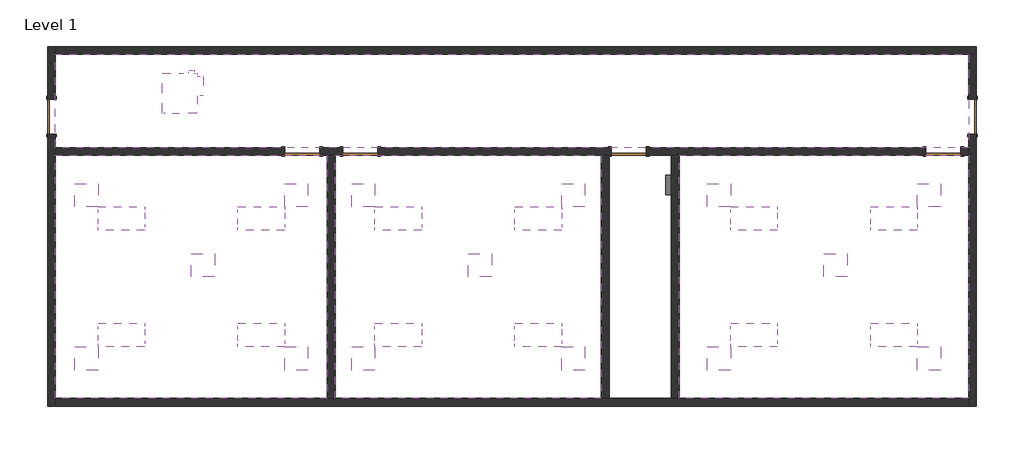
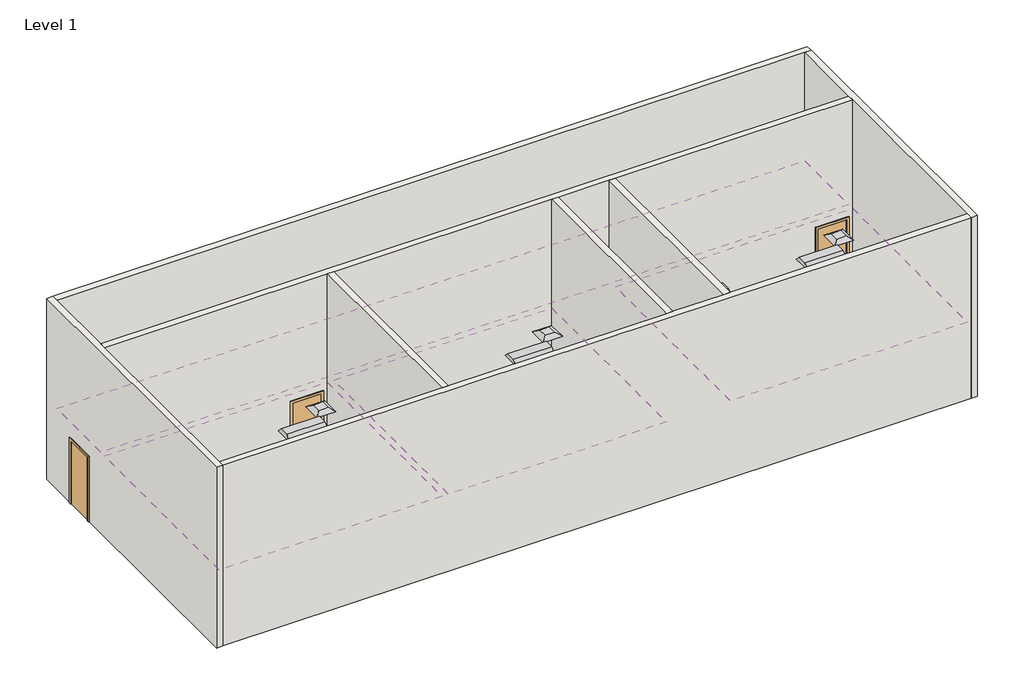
# One storey: 15 air terminals, 12 light fixtures, 8 walls, 6 doors, 4 coverings, 2 proxies.
"""IFC4 building model written with IfcOpenShell, lengths in millimetres."""

import ifcopenshell
import ifcopenshell.guid

model = None  # the IFC model being written
_history = None  # IfcOwnerHistory: only IFC2X3 demands one
_inside = {}  # id of a spatial element -> (the spatial element, [elements in it])
_under = {}  # id of a project, library or spatial element -> (it, [spatial elements below it])
_declared = {}  # id of a project -> (the project, [libraries it declares])
_typed = {}  # id of a type object -> (the type object, [elements of that type])
_made_of = {}  # id of a material, layer set ... -> (it, [elements and type objects made of it])


def new_model(schema):
    """Start an empty IFC model of exactly this schema.

    Asked for "IFC4X3", IfcOpenShell would pick the latest addendum, in which some entities
    have other attributes; the version numbers below select the first issue.
    IFC2X3 requires an IfcOwnerHistory on every rooted entity: one is made here for all.
    """
    global model, _history
    if schema == "IFC4X3":
        model = ifcopenshell.file(schema_version=(4, 3, 0, 0))
    else:
        model = ifcopenshell.file(schema=schema)
    _inside.clear()
    _under.clear()
    _declared.clear()
    _typed.clear()
    _made_of.clear()
    _history = None
    if model.schema == "IFC2X3":
        org = make("IfcOrganization", Name="unknown")
        user = make(
            "IfcPersonAndOrganization",
            ThePerson=make("IfcPerson", FamilyName="unknown"),
            TheOrganization=org,
        )
        app = make(
            "IfcApplication",
            ApplicationDeveloper=org,
            Version="unknown",
            ApplicationFullName="unknown",
            ApplicationIdentifier="unknown",
        )
        _history = make(
            "IfcOwnerHistory",
            OwningUser=user,
            OwningApplication=app,
            ChangeAction="ADDED",
            CreationDate=0,
        )
    return model


def make(cls, **values):
    """One entity of the class cls with the attributes given. An attribute that is None is left unset."""
    return model.create_entity(
        cls, **{name: value for name, value in values.items() if value is not None}
    )


def rooted(cls, **values):
    """An entity with a GlobalId (a new one), such as an element, a storey or a relation."""
    return make(cls, GlobalId=ifcopenshell.guid.new(), OwnerHistory=_history, **values)


def si_unit(unit_type, name, prefix=None):
    """IfcSIUnit, for example si_unit("LENGTHUNIT", "METRE", prefix="MILLI")."""
    return make("IfcSIUnit", UnitType=unit_type, Prefix=prefix, Name=name)


def assignment(units):
    """IfcUnitAssignment: the units of a project."""
    return None if units is None else make("IfcUnitAssignment", Units=units)


def point(xyz):
    """IfcCartesianPoint."""
    return None if xyz is None else make("IfcCartesianPoint", Coordinates=xyz)


def direction(xyz):
    """IfcDirection."""
    return None if xyz is None else make("IfcDirection", DirectionRatios=xyz)


def frame(location, z_axis=None, x_axis=None):
    """IfcAxis2Placement3D, a coordinate frame: its origin and axes. An axis left out is left unset."""
    return make(
        "IfcAxis2Placement3D",
        Location=point(location),
        Axis=direction(z_axis),
        RefDirection=direction(x_axis),
    )


def frame_2d(location, x_axis=None):
    """IfcAxis2Placement2D, a coordinate frame in the plane: its origin and x axis."""
    return make(
        "IfcAxis2Placement2D", Location=point(location), RefDirection=direction(x_axis)
    )


def origin():
    """The frame at (0, 0, 0) with its axes left unset."""
    return frame((0.0, 0.0, 0.0))


def origin_with_axes():
    """The frame at (0, 0, 0) with the z axis (0, 0, 1) and the x axis (1, 0, 0) written out."""
    return frame((0.0, 0.0, 0.0), z_axis=(0.0, 0.0, 1.0), x_axis=(1.0, 0.0, 0.0))


def place(relative_to, where):
    """IfcLocalPlacement: puts the frame where relative to a parent placement (None: the world)."""
    return make(
        "IfcLocalPlacement", PlacementRelTo=relative_to, RelativePlacement=where
    )


def context(
    kind, dimensions, precision=None, world=None, true_north=None, identifier=None
):
    """IfcGeometricRepresentationContext, for example the 3D "Model" context."""
    return make(
        "IfcGeometricRepresentationContext",
        ContextIdentifier=identifier,
        ContextType=kind,
        CoordinateSpaceDimension=dimensions,
        Precision=precision,
        WorldCoordinateSystem=world,
        TrueNorth=true_north,
    )


def project(units=None, contexts=None):
    """IfcProject with its units and contexts."""
    return rooted(
        "IfcProject",
        Name="project",
        RepresentationContexts=contexts,
        UnitsInContext=assignment(units),
    )


def spatial(cls, under=None, at=None, **own):
    """A site, building, storey or space (cls), placed at a placement, below another one or the project."""
    s = rooted(cls, ObjectPlacement=at, **own)
    if under is not None:
        _under.setdefault(under.id(), (under, []))[1].append(s)
    return s


def polyline(points):
    """IfcPolyline through the points."""
    return make("IfcPolyline", Points=[point(p) for p in points])


def circle_curve(where, radius):
    """IfcCircle in the frame where."""
    return make("IfcCircle", Position=where, Radius=radius)


def trimmed(basis, trim1, trim2, sense, master):
    """IfcTrimmedCurve: the piece of a basis curve between two trims."""
    return make(
        "IfcTrimmedCurve",
        BasisCurve=basis,
        Trim1=trim1,
        Trim2=trim2,
        SenseAgreement=sense,
        MasterRepresentation=master,
    )


def segment(curve, same_sense, transition):
    """IfcCompositeCurveSegment."""
    return make(
        "IfcCompositeCurveSegment",
        Transition=transition,
        SameSense=same_sense,
        ParentCurve=curve,
    )


def composite_curve(segments, self_intersect=None):
    """IfcCompositeCurve: segments joined end to end."""
    return make("IfcCompositeCurve", Segments=segments, SelfIntersect=self_intersect)


def outline(outer, holes=None, kind="AREA"):
    """IfcArbitraryClosedProfileDef: a profile drawn as a closed curve; with holes, ...WithVoids."""
    if holes is None:
        return make("IfcArbitraryClosedProfileDef", ProfileType=kind, OuterCurve=outer)
    return make(
        "IfcArbitraryProfileDefWithVoids",
        ProfileType=kind,
        OuterCurve=outer,
        InnerCurves=holes,
    )


def extrude(swept, where, along, depth):
    """IfcExtrudedAreaSolid: the profile swept, set in the frame where, extruded along a direction by depth."""
    return make(
        "IfcExtrudedAreaSolid",
        SweptArea=swept,
        Position=where,
        ExtrudedDirection=direction(along),
        Depth=depth,
    )


def faces_of(points, faces, orient=None, outer=None):
    """IfcFace entities. A face is a list of loops; a loop is a list of indices into points, from 0.

    orient and outer hold one flag for each loop. By default every Orientation is true, the
    first loop of a face is its IfcFaceOuterBound and the others are IfcFaceBound.
    """
    made = []
    for i, loops in enumerate(faces):
        bounds = []
        for j, loop in enumerate(loops):
            is_outer = j == 0 if outer is None else outer[i][j]
            bounds.append(
                make(
                    "IfcFaceOuterBound" if is_outer else "IfcFaceBound",
                    Bound=make("IfcPolyLoop", Polygon=[points[k] for k in loop]),
                    Orientation=True if orient is None else orient[i][j],
                )
            )
        made.append(make("IfcFace", Bounds=bounds))
    return made


def faceted_brep(points, faces, orient=None, outer=None, voids=None):
    """IfcFacetedBrep: a solid bounded by flat faces; with voids (closed shells), ...WithVoids."""
    shared = [point(p) for p in points]
    hull = make("IfcClosedShell", CfsFaces=faces_of(shared, faces, orient, outer))
    if voids is None:
        return make("IfcFacetedBrep", Outer=hull)
    return make(
        "IfcFacetedBrepWithVoids",
        Outer=hull,
        Voids=[
            make(cls, CfsFaces=faces_of(shared, fs, o, b)) for cls, fs, o, b in voids
        ],
    )


def shape(context_of_items, identifier, shape_type, items):
    """IfcShapeRepresentation: the items that make up one representation, for example the "Body"."""
    return make(
        "IfcShapeRepresentation",
        ContextOfItems=context_of_items,
        RepresentationIdentifier=identifier,
        RepresentationType=shape_type,
        Items=items,
    )


def source(mapping_origin, context_of_items, identifier, shape_type, items):
    """IfcRepresentationMap: a shape defined once, which mapped items show again and again."""
    return make(
        "IfcRepresentationMap",
        MappingOrigin=mapping_origin,
        MappedRepresentation=shape(context_of_items, identifier, shape_type, items),
    )


def transform(
    local_origin,
    x_axis=None,
    y_axis=None,
    z_axis=None,
    scale=None,
    scale2=None,
    scale3=None,
    uniform=True,
):
    """IfcCartesianTransformationOperator3D, or its non-uniform kind. x_axis, y_axis, z_axis: its Axis1, 2, 3."""
    if uniform:
        return make(
            "IfcCartesianTransformationOperator3D",
            Axis1=direction(x_axis),
            Axis2=direction(y_axis),
            LocalOrigin=point(local_origin),
            Scale=scale,
            Axis3=direction(z_axis),
        )
    return make(
        "IfcCartesianTransformationOperator3DnonUniform",
        Axis1=direction(x_axis),
        Axis2=direction(y_axis),
        LocalOrigin=point(local_origin),
        Scale=scale,
        Axis3=direction(z_axis),
        Scale2=scale2,
        Scale3=scale3,
    )


def mapped(mapping_source, mapping_target):
    """IfcMappedItem: shows the shape of a source again, moved by a transform."""
    return make(
        "IfcMappedItem", MappingSource=mapping_source, MappingTarget=mapping_target
    )


def made_of(thing, what):
    """Note that an element or type object is made of a material, layer set ...; save() writes the relation."""
    if what is not None:
        _made_of.setdefault(what.id(), (what, []))[1].append(thing)
    return thing


def element(
    cls,
    number,
    at=None,
    inside=None,
    cuts=None,
    type_object=None,
    material=None,
    context=None,
    identifier="Body",
    shape_type=None,
    held_by="IfcProductDefinitionShape",
    body=None,
    shapes=None,
    **own,
):
    """One element of the class cls, such as IfcWall. Its Tag is "e" and its number.

    at: its placement. inside: the storey or other place that contains it. cuts: it is an
    opening in that element (IfcRelVoidsElement). A single representation is given by context,
    identifier, shape_type and body (its items); several are given by shapes. held_by: the class
    of the entity that holds the representations. save() writes the other relations.
    """
    e = rooted(cls, Tag="e%d" % number, ObjectPlacement=at, **own)
    if body is not None:
        shapes = [shape(context, identifier, shape_type, body)]
    if shapes is not None:
        e.Representation = make(held_by, Representations=shapes)
    if inside is not None:
        _inside.setdefault(inside.id(), (inside, []))[1].append(e)
    if cuts is not None:
        rooted(
            "IfcRelVoidsElement", RelatingBuildingElement=cuts, RelatedOpeningElement=e
        )
    if type_object is not None:
        _typed.setdefault(type_object.id(), (type_object, []))[1].append(e)
    return made_of(e, material)


def aggregate(whole, parts):
    """IfcRelAggregates: a whole, such as a stair, and the parts it consists of."""
    return rooted("IfcRelAggregates", RelatingObject=whole, RelatedObjects=parts)


def save(model, path):
    """Write the relations noted so far, then the file.

    IfcRelAggregates (storeys below a building ...), IfcRelContainedInSpatialStructure (elements
    in a storey), IfcRelDefinesByType, IfcRelAssociatesMaterial and IfcRelDeclares: one each for
    every whole, place, type object, material and project.
    """
    for whole, parts in _under.values():
        aggregate(whole, parts)
    for where, things in _inside.values():
        rooted(
            "IfcRelContainedInSpatialStructure",
            RelatedElements=things,
            RelatingStructure=where,
        )
    for kind, things in _typed.values():
        rooted("IfcRelDefinesByType", RelatedObjects=things, RelatingType=kind)
    for what, things in _made_of.values():
        rooted("IfcRelAssociatesMaterial", RelatedObjects=things, RelatingMaterial=what)
    for by, libraries in _declared.values():
        rooted("IfcRelDeclares", RelatingContext=by, RelatedDefinitions=libraries)
    model.write(path)


def return_air_diffuser_24_x_24_face_12_x_12_connection_ff543d60(model_context):
    return source(origin(), model_context, "Body", "Brep", [
        faceted_brep([(152.4, 152.4, 101.6), (-152.4, 152.4, 101.6), (-152.4, -152.4, 101.6), (152.4, -152.4, 101.6), (304.8, 304.8, 0.0), (304.8, -304.8, 0.0), (-304.8, -304.8, 0.0), (-304.8, 304.8, 0.0)], [[[0, 1, 2, 3]], [[4, 5, 6, 7]], [[4, 7, 1, 0]], [[7, 6, 2, 1]], [[6, 5, 3, 2]], [[5, 4, 0, 3]]]),
    ])


def proxy_250a_6d932d76(model_context):
    return source(origin(), model_context, "Body", "SweptSolid", [
        extrude(outline(polyline([(254.0, 856.4725953), (254.0, -108.7274047), (-254.0, -108.7274047), (-254.0, 856.4725953), (254.0, 856.4725953)])), origin_with_axes(), (0.0, 0.0, 1.0), 146.05),
    ])


def parallel_fan_powered_vav_size_2_6_inch_inlet_6222e6d5(model_context):
    return source(origin(), model_context, "Body", "SolidModel", [
        extrude(outline(polyline([(531.8125, -15.875), (531.8125, -371.475), (519.1125, -371.475), (519.1125, -15.875), (531.8125, -15.875)])), frame((0.0, 0.0, -139.7), z_axis=(0.0, 0.0, 1.0), x_axis=(1.0, 0.0, 0.0)), (0.0, 0.0, 1.0), 279.4),
        extrude(outline(polyline([(61.9125, 460.375), (-446.0875, 460.375), (-446.0875, 619.125), (61.9125, 619.125), (61.9125, 460.375)])), frame((0.0, 0.0, -152.4), z_axis=(0.0, 0.0, 1.0), x_axis=(1.0, 0.0, 0.0)), (0.0, 0.0, 1.0), 304.8),
        extrude(outline(composite_curve([segment(trimmed(circle_curve(frame_2d((307.975, 0.0)), 76.2), [point((231.775, 0.0))], [point((384.175, 0.0))], False, "CARTESIAN"), True, "CONTINUOUS"), segment(trimmed(circle_curve(frame_2d((307.975, 0.0)), 76.2), [point((384.175, 0.0))], [point((231.775, 0.0))], False, "CARTESIAN"), True, "CONTINUOUS")], self_intersect=False)), frame((-604.8375, 0.0, 0.0), z_axis=(1.0, 0.0, 0.0), x_axis=(0.0, 1.0, 0.0)), (0.0, 0.0, 1.0), 85.725),
        faceted_brep([(519.1125, 460.375, 217.4875), (-519.1125, 460.375, 217.4875), (-519.1125, -460.375, 217.4875), (519.1125, -460.375, 217.4875), (519.1125, 460.375, -217.4875), (519.1125, -460.375, -217.4875), (-519.1125, -460.375, -217.4875), (-519.1125, 460.375, -217.4875), (-519.1125, -434.975, 177.8), (-519.1125, -434.975, -177.8), (-519.1125, -28.575, -177.8), (-519.1125, -28.575, 177.8), (0.0, -434.975, 177.8), (0.0, -28.575, 177.8), (0.0, -28.575, -177.8), (0.0, -434.975, -177.8)], [[[0, 1, 2, 3]], [[4, 5, 6, 7]], [[1, 0, 4, 7]], [[2, 1, 7, 6], [8, 9, 10, 11]], [[3, 2, 6, 5]], [[0, 3, 5, 4]], [[12, 13, 14, 15]], [[12, 15, 9, 8]], [[15, 14, 10, 9]], [[14, 13, 11, 10]], [[13, 12, 8, 11]]]),
    ])


def door_54dd4da4(model_context):
    return source(origin(), model_context, "Body", "SweptSolid", [
        extrude(outline(polyline([(2209.8, -533.4), (0.0, -533.4), (0.0, -457.2), (2133.6, -457.2), (2133.6, 457.2), (0.0, 457.2), (0.0, 533.4), (2209.8, 533.4), (2209.8, -533.4)])), frame((0.0, 101.6, 0.0), z_axis=(0.0, 1.0, 0.0), x_axis=(0.0, 0.0, 1.0)), (0.0, 0.0, 1.0), 25.4),
        extrude(outline(polyline([(2209.8, 533.4), (2209.8, -533.4), (0.0, -533.4), (0.0, -457.2), (2133.6, -457.2), (2133.6, 457.2), (0.0, 457.2), (0.0, 533.4), (2209.8, 533.4)])), frame((0.0, -127.0, 0.0), z_axis=(0.0, 1.0, 0.0), x_axis=(0.0, 0.0, 1.0)), (0.0, 0.0, 1.0), 25.4),
        extrude(outline(polyline([(457.2, 50.8), (-457.2, 50.8), (-457.2, 101.6), (457.2, 101.6), (457.2, 50.8)])), origin_with_axes(), (0.0, 0.0, 1.0), 2133.6),
    ])


def door_719f80de(model_context):
    return source(origin(), model_context, "Body", "SweptSolid", [
        extrude(outline(polyline([(2209.8, -533.4), (0.0, -533.4), (0.0, -457.2), (2133.6, -457.2), (2133.6, 457.2), (0.0, 457.2), (0.0, 533.4), (2209.8, 533.4), (2209.8, -533.4)])), frame((0.0, -127.0, 0.0), z_axis=(0.0, 1.0, 0.0), x_axis=(0.0, 0.0, 1.0)), (0.0, 0.0, 1.0), 25.4),
        extrude(outline(polyline([(2209.8, 533.4), (2209.8, -533.4), (0.0, -533.4), (0.0, -457.2), (2133.6, -457.2), (2133.6, 457.2), (0.0, 457.2), (0.0, 533.4), (2209.8, 533.4)])), frame((0.0, 101.6, 0.0), z_axis=(0.0, 1.0, 0.0), x_axis=(0.0, 0.0, 1.0)), (0.0, 0.0, 1.0), 25.4),
        extrude(outline(polyline([(457.2, -50.8), (457.2, -101.6), (-457.2, -101.6), (-457.2, -50.8), (457.2, -50.8)])), origin_with_axes(), (0.0, 0.0, 1.0), 2133.6),
    ])


def plain_recessed_lighting_fixture_2x4_120_d3d5fc87(model_context):
    return source(origin(), model_context, "Body", "SweptSolid", [
        extrude(outline(polyline([(-609.6, 0.0), (0.0, 0.0), (-152.4, -152.4), (-457.2, -152.4), (-609.6, 0.0)])), frame((0.0, 0.0, 0.0), z_axis=(1.0, 0.0, 0.0), x_axis=(0.0, 1.0, 0.0)), (0.0, 0.0, 1.0), 1219.2),
    ])


model = new_model("IFC4")

# Units and contexts
model_context = context("Model", 3, world=origin())
ifc_project = project(units=[si_unit("LENGTHUNIT", "METRE", prefix="MILLI")], contexts=[model_context])

# Site, building, storey
site = spatial("IfcSite", under=ifc_project)
building = spatial("IfcBuilding", under=site)
storey = spatial("IfcBuildingStorey", under=building, Name="Level 1", Elevation=0.0)

# Air terminals
placement = place(None, origin())
return_air_diffuser_24_x_24_face_12_x_12_connection_shape = return_air_diffuser_24_x_24_face_12_x_12_connection_ff543d60(model_context)
element("IfcAirTerminal", 1, ObjectType="Return Air Diffuser : 24 x 24 Face 12 x 12 Connection", at=placement, inside=storey, context=model_context, shape_type="MappedRepresentation", body=[
    mapped(return_air_diffuser_24_x_24_face_12_x_12_connection_shape, transform((-16075.5810025, -1619.7134185, 2438.4), x_axis=(1.0, 0.0, 0.0), y_axis=(0.0, 1.0, 0.0), z_axis=(0.0, 0.0, 1.0))),
])
element("IfcAirTerminal", 2, ObjectType="Return Air Diffuser : 24 x 24 Face 12 x 12 Connection", at=placement, inside=storey, context=model_context, shape_type="MappedRepresentation", body=[
    mapped(return_air_diffuser_24_x_24_face_12_x_12_connection_shape, transform((-8836.5810025, -1619.7134185, 2438.4), x_axis=(1.0, 0.0, 0.0), y_axis=(0.0, 1.0, 0.0), z_axis=(0.0, 0.0, 1.0))),
])
element("IfcAirTerminal", 3, ObjectType="Return Air Diffuser : 24 x 24 Face 12 x 12 Connection", at=placement, inside=storey, context=model_context, shape_type="MappedRepresentation", body=[
    mapped(return_air_diffuser_24_x_24_face_12_x_12_connection_shape, transform((459.8189975, -1619.7134185, 2438.4), x_axis=(1.0, 0.0, 0.0), y_axis=(0.0, 1.0, 0.0), z_axis=(0.0, 0.0, 1.0))),
])
element("IfcAirTerminal", 4, ObjectType="Supply Diffuser : 24 x 24 Face 12 x 12 Connection", at=placement, inside=storey, context=model_context, shape_type="MappedRepresentation", body=[
    mapped(return_air_diffuser_24_x_24_face_12_x_12_connection_shape, transform((-11884.5810025, 209.0865815, 2438.4), x_axis=(1.0, 0.0, 0.0), y_axis=(0.0, 1.0, 0.0), z_axis=(0.0, 0.0, 1.0))),
])
element("IfcAirTerminal", 5, ObjectType="Supply Diffuser : 24 x 24 Face 12 x 12 Connection", at=placement, inside=storey, context=model_context, shape_type="MappedRepresentation", body=[
    mapped(return_air_diffuser_24_x_24_face_12_x_12_connection_shape, transform((-11884.5810025, -4058.1134185, 2438.4), x_axis=(1.0, 0.0, 0.0), y_axis=(0.0, 1.0, 0.0), z_axis=(0.0, 0.0, 1.0))),
])
element("IfcAirTerminal", 6, ObjectType="Supply Diffuser : 24 x 24 Face 12 x 12 Connection", at=placement, inside=storey, context=model_context, shape_type="MappedRepresentation", body=[
    mapped(return_air_diffuser_24_x_24_face_12_x_12_connection_shape, transform((-6398.1810025, 209.0865815, 2438.4), x_axis=(1.0, 0.0, 0.0), y_axis=(0.0, 1.0, 0.0), z_axis=(0.0, 0.0, 1.0))),
])
element("IfcAirTerminal", 7, ObjectType="Supply Diffuser : 24 x 24 Face 12 x 12 Connection", at=placement, inside=storey, context=model_context, shape_type="MappedRepresentation", body=[
    mapped(return_air_diffuser_24_x_24_face_12_x_12_connection_shape, transform((-6398.1810025, -4058.1134185, 2438.4), x_axis=(1.0, 0.0, 0.0), y_axis=(0.0, 1.0, 0.0), z_axis=(0.0, 0.0, 1.0))),
])
element("IfcAirTerminal", 8, ObjectType="Supply Diffuser : 24 x 24 Face 12 x 12 Connection", at=placement, inside=storey, context=model_context, shape_type="MappedRepresentation", body=[
    mapped(return_air_diffuser_24_x_24_face_12_x_12_connection_shape, transform((-19123.5810025, 209.0865815, 2438.4), x_axis=(1.0, 0.0, 0.0), y_axis=(0.0, 1.0, 0.0), z_axis=(0.0, 0.0, 1.0))),
])
element("IfcAirTerminal", 9, ObjectType="Supply Diffuser : 24 x 24 Face 12 x 12 Connection", at=placement, inside=storey, context=model_context, shape_type="MappedRepresentation", body=[
    mapped(return_air_diffuser_24_x_24_face_12_x_12_connection_shape, transform((-19123.5810025, -4058.1134185, 2438.4), x_axis=(1.0, 0.0, 0.0), y_axis=(0.0, 1.0, 0.0), z_axis=(0.0, 0.0, 1.0))),
])
element("IfcAirTerminal", 10, ObjectType="Supply Diffuser : 24 x 24 Face 12 x 12 Connection", at=placement, inside=storey, context=model_context, shape_type="MappedRepresentation", body=[
    mapped(return_air_diffuser_24_x_24_face_12_x_12_connection_shape, transform((-13637.1810025, 209.0865815, 2438.4), x_axis=(1.0, 0.0, 0.0), y_axis=(0.0, 1.0, 0.0), z_axis=(0.0, 0.0, 1.0))),
])
element("IfcAirTerminal", 11, ObjectType="Supply Diffuser : 24 x 24 Face 12 x 12 Connection", at=placement, inside=storey, context=model_context, shape_type="MappedRepresentation", body=[
    mapped(return_air_diffuser_24_x_24_face_12_x_12_connection_shape, transform((-13637.1810025, -4058.1134185, 2438.4), x_axis=(1.0, 0.0, 0.0), y_axis=(0.0, 1.0, 0.0), z_axis=(0.0, 0.0, 1.0))),
])
element("IfcAirTerminal", 12, ObjectType="Supply Diffuser : 24 x 24 Face 12 x 12 Connection", at=placement, inside=storey, context=model_context, shape_type="MappedRepresentation", body=[
    mapped(return_air_diffuser_24_x_24_face_12_x_12_connection_shape, transform((-2588.1810025, 209.0865815, 2438.4), x_axis=(1.0, 0.0, 0.0), y_axis=(0.0, 1.0, 0.0), z_axis=(0.0, 0.0, 1.0))),
])
element("IfcAirTerminal", 13, ObjectType="Supply Diffuser : 24 x 24 Face 12 x 12 Connection", at=placement, inside=storey, context=model_context, shape_type="MappedRepresentation", body=[
    mapped(return_air_diffuser_24_x_24_face_12_x_12_connection_shape, transform((-2588.1810025, -4058.1134185, 2438.4), x_axis=(1.0, 0.0, 0.0), y_axis=(0.0, 1.0, 0.0), z_axis=(0.0, 0.0, 1.0))),
])
element("IfcAirTerminal", 14, ObjectType="Supply Diffuser : 24 x 24 Face 12 x 12 Connection", at=placement, inside=storey, context=model_context, shape_type="MappedRepresentation", body=[
    mapped(return_air_diffuser_24_x_24_face_12_x_12_connection_shape, transform((2898.2189975, 209.0865815, 2438.4), x_axis=(1.0, 0.0, 0.0), y_axis=(0.0, 1.0, 0.0), z_axis=(0.0, 0.0, 1.0))),
])
element("IfcAirTerminal", 15, ObjectType="Supply Diffuser : 24 x 24 Face 12 x 12 Connection", at=placement, inside=storey, context=model_context, shape_type="MappedRepresentation", body=[
    mapped(return_air_diffuser_24_x_24_face_12_x_12_connection_shape, transform((2898.2189975, -4058.1134185, 2438.4), x_axis=(1.0, 0.0, 0.0), y_axis=(0.0, 1.0, 0.0), z_axis=(0.0, 0.0, 1.0))),
])

# Proxies
proxy_250a_shape = proxy_250a_6d932d76(model_context)
element("IfcBuildingElementProxy", 16, Name="480V MLO Lighting and Appliance Panelboards - Surface : 250A", ObjectType="480V MLO Lighting and Appliance Panelboards - Surface : 250A", at=placement, inside=storey, context=model_context, shape_type="MappedRepresentation", body=[
    mapped(proxy_250a_shape, transform((-3832.7810025, 476.0617369, 845.3274047), x_axis=(0.0, -1.0, 0.0), y_axis=(0.0, 0.0, 1.0), z_axis=(-1.0, 0.0, 0.0))),
])
parallel_fan_powered_vav_size_2_6_inch_inlet_shape = parallel_fan_powered_vav_size_2_6_inch_inlet_6222e6d5(model_context)
element("IfcBuildingElementProxy", 17, Name="Parallel Fan Powered VAV : Size 2 - 6 inch Inlet", ObjectType="Parallel Fan Powered VAV : Size 2 - 6 inch Inlet", at=placement, inside=storey, context=model_context, shape_type="MappedRepresentation", body=[
    mapped(parallel_fan_powered_vav_size_2_6_inch_inlet_shape, transform((-16685.1810025, 2876.0865815, 2743.2), x_axis=(0.0, -1.0, 0.0), y_axis=(1.0, 0.0, 0.0), z_axis=(0.0, 0.0, 1.0))),
])

# Coverings
element("IfcCovering", 18, ObjectType="2' x 4' ACT System", at=placement, inside=storey, context=model_context, shape_type="SweptSolid", body=[
    extrude(outline(polyline([(-19936.3810025, 1250.4865815), (-12824.3810025, 1250.4865815), (-12824.3810025, -5099.5134185), (-19936.3810025, -5099.5134185), (-19936.3810025, 1250.4865815)])), frame((0.0, 0.0, 2438.4), z_axis=(0.0, 0.0, 1.0), x_axis=(1.0, 0.0, 0.0)), (0.0, 0.0, 1.0), 57.15),
])
element("IfcCovering", 19, ObjectType="2' x 4' ACT System", at=placement, inside=storey, context=model_context, shape_type="SweptSolid", body=[
    extrude(outline(polyline([(-12621.1810025, -5099.5134185), (-12621.1810025, 1250.4865815), (-5661.5810025, 1250.4865815), (-5661.5810025, -5099.5134185), (-12621.1810025, -5099.5134185)])), frame((0.0, 0.0, 2438.4), z_axis=(0.0, 0.0, 1.0), x_axis=(1.0, 0.0, 0.0)), (0.0, 0.0, 1.0), 57.15),
])
element("IfcCovering", 20, ObjectType="2' x 4' ACT System", at=placement, inside=storey, context=model_context, shape_type="SweptSolid", body=[
    extrude(outline(polyline([(-3629.5810025, -5099.5134185), (-3629.5810025, 1250.4865815), (3939.6189975, 1250.4865815), (3939.6189975, -5099.5134185), (-3629.5810025, -5099.5134185)])), frame((0.0, 0.0, 2438.4), z_axis=(0.0, 0.0, 1.0), x_axis=(1.0, 0.0, 0.0)), (0.0, 0.0, 1.0), 57.15),
])
element("IfcCovering", 21, ObjectType="2' x 4' ACT System", at=placement, inside=storey, context=model_context, shape_type="SweptSolid", body=[
    extrude(outline(polyline([(3939.6189975, 1453.6865815), (-19936.3810025, 1453.6865815), (-19936.3810025, 3892.0865815), (3939.6189975, 3892.0865815), (3939.6189975, 1453.6865815)])), frame((0.0, 0.0, 2438.4), z_axis=(0.0, 0.0, 1.0), x_axis=(1.0, 0.0, 0.0)), (0.0, 0.0, 1.0), 57.15),
])

# Doors
door_shape = door_54dd4da4(model_context)
element("IfcDoor", 22, ObjectType="Single-Flush : 36\" x 84\"", at=placement, inside=storey, context=model_context, shape_type="MappedRepresentation", body=[
    mapped(door_shape, transform((-11960.7810025, 1352.0865815, 0.0), x_axis=(-1.0, 0.0, 0.0), y_axis=(0.0, -1.0, 0.0), z_axis=(0.0, 0.0, 1.0))),
])
element("IfcDoor", 23, ObjectType="Single-Flush : 36\" x 84\"", at=placement, inside=storey, context=model_context, shape_type="MappedRepresentation", body=[
    mapped(door_shape, transform((-4950.3810025, 1352.0865815, 0.0), x_axis=(-1.0, 0.0, 0.0), y_axis=(0.0, -1.0, 0.0), z_axis=(0.0, 0.0, 1.0))),
])
element("IfcDoor", 24, ObjectType="Single-Flush : 36\" x 84\"", at=placement, inside=storey, context=model_context, shape_type="MappedRepresentation", body=[
    mapped(door_shape, transform((-20037.9810025, 2266.4865815, 0.0), x_axis=(0.0, 1.0, 0.0), y_axis=(-1.0, 0.0, 0.0), z_axis=(0.0, 0.0, 1.0))),
])
door_2_shape = door_719f80de(model_context)
element("IfcDoor", 25, ObjectType="Single-Flush : 36\" x 84\"", at=placement, inside=storey, context=model_context, shape_type="MappedRepresentation", body=[
    mapped(door_2_shape, transform((-13484.7810025, 1352.0865815, 0.0), x_axis=(1.0, 0.0, 0.0), y_axis=(0.0, 1.0, 0.0), z_axis=(0.0, 0.0, 1.0))),
])
element("IfcDoor", 26, ObjectType="Single-Flush : 36\" x 84\"", at=placement, inside=storey, context=model_context, shape_type="MappedRepresentation", body=[
    mapped(door_2_shape, transform((3279.2189975, 1352.0865815, 0.0), x_axis=(1.0, 0.0, 0.0), y_axis=(0.0, 1.0, 0.0), z_axis=(0.0, 0.0, 1.0))),
])
element("IfcDoor", 27, ObjectType="Single-Flush : 36\" x 84\"", at=placement, inside=storey, context=model_context, shape_type="MappedRepresentation", body=[
    mapped(door_2_shape, transform((4041.2189975, 2266.4865815, 0.0), x_axis=(0.0, 1.0, 0.0), y_axis=(-1.0, 0.0, 0.0), z_axis=(0.0, 0.0, 1.0))),
])

# Light fixtures
plain_recessed_lighting_fixture_2x4_120_shape = plain_recessed_lighting_fixture_2x4_120_d3d5fc87(model_context)
element("IfcLightFixture", 28, ObjectType="Plain Recessed Lighting Fixture : 2x4 - 120", at=placement, inside=storey, context=model_context, shape_type="MappedRepresentation", body=[
    mapped(plain_recessed_lighting_fixture_2x4_120_shape, transform((-18818.7810025, -705.3134185, 2438.4), x_axis=(1.0, 0.0, 0.0), y_axis=(0.0, -1.0, 0.0), z_axis=(0.0, 0.0, -1.0))),
])
element("IfcLightFixture", 29, ObjectType="Plain Recessed Lighting Fixture : 2x4 - 120", at=placement, inside=storey, context=model_context, shape_type="MappedRepresentation", body=[
    mapped(plain_recessed_lighting_fixture_2x4_120_shape, transform((-18818.7810025, -3753.3134185, 2438.4), x_axis=(1.0, 0.0, 0.0), y_axis=(0.0, -1.0, 0.0), z_axis=(0.0, 0.0, -1.0))),
])
element("IfcLightFixture", 30, ObjectType="Plain Recessed Lighting Fixture : 2x4 - 120", at=placement, inside=storey, context=model_context, shape_type="MappedRepresentation", body=[
    mapped(plain_recessed_lighting_fixture_2x4_120_shape, transform((-15161.1810025, -705.3134185, 2438.4), x_axis=(1.0, 0.0, 0.0), y_axis=(0.0, -1.0, 0.0), z_axis=(0.0, 0.0, -1.0))),
])
element("IfcLightFixture", 31, ObjectType="Plain Recessed Lighting Fixture : 2x4 - 120", at=placement, inside=storey, context=model_context, shape_type="MappedRepresentation", body=[
    mapped(plain_recessed_lighting_fixture_2x4_120_shape, transform((-15161.1810025, -3753.3134185, 2438.4), x_axis=(1.0, 0.0, 0.0), y_axis=(0.0, -1.0, 0.0), z_axis=(0.0, 0.0, -1.0))),
])
element("IfcLightFixture", 32, ObjectType="Plain Recessed Lighting Fixture : 2x4 - 120", at=placement, inside=storey, context=model_context, shape_type="MappedRepresentation", body=[
    mapped(plain_recessed_lighting_fixture_2x4_120_shape, transform((-11579.7810025, -705.3134185, 2438.4), x_axis=(1.0, 0.0, 0.0), y_axis=(0.0, -1.0, 0.0), z_axis=(0.0, 0.0, -1.0))),
])
element("IfcLightFixture", 33, ObjectType="Plain Recessed Lighting Fixture : 2x4 - 120", at=placement, inside=storey, context=model_context, shape_type="MappedRepresentation", body=[
    mapped(plain_recessed_lighting_fixture_2x4_120_shape, transform((-11579.7810025, -3753.3134185, 2438.4), x_axis=(1.0, 0.0, 0.0), y_axis=(0.0, -1.0, 0.0), z_axis=(0.0, 0.0, -1.0))),
])
element("IfcLightFixture", 34, ObjectType="Plain Recessed Lighting Fixture : 2x4 - 120", at=placement, inside=storey, context=model_context, shape_type="MappedRepresentation", body=[
    mapped(plain_recessed_lighting_fixture_2x4_120_shape, transform((-7922.1810025, -705.3134185, 2438.4), x_axis=(1.0, 0.0, 0.0), y_axis=(0.0, -1.0, 0.0), z_axis=(0.0, 0.0, -1.0))),
])
element("IfcLightFixture", 35, ObjectType="Plain Recessed Lighting Fixture : 2x4 - 120", at=placement, inside=storey, context=model_context, shape_type="MappedRepresentation", body=[
    mapped(plain_recessed_lighting_fixture_2x4_120_shape, transform((-7922.1810025, -3753.3134185, 2438.4), x_axis=(1.0, 0.0, 0.0), y_axis=(0.0, -1.0, 0.0), z_axis=(0.0, 0.0, -1.0))),
])
element("IfcLightFixture", 36, ObjectType="Plain Recessed Lighting Fixture : 2x4 - 120", at=placement, inside=storey, context=model_context, shape_type="MappedRepresentation", body=[
    mapped(plain_recessed_lighting_fixture_2x4_120_shape, transform((-2283.3810025, -705.3134185, 2438.4), x_axis=(1.0, 0.0, 0.0), y_axis=(0.0, -1.0, 0.0), z_axis=(0.0, 0.0, -1.0))),
])
element("IfcLightFixture", 37, ObjectType="Plain Recessed Lighting Fixture : 2x4 - 120", at=placement, inside=storey, context=model_context, shape_type="MappedRepresentation", body=[
    mapped(plain_recessed_lighting_fixture_2x4_120_shape, transform((-2283.3810025, -3753.3134185, 2438.4), x_axis=(1.0, 0.0, 0.0), y_axis=(0.0, -1.0, 0.0), z_axis=(0.0, 0.0, -1.0))),
])
element("IfcLightFixture", 38, ObjectType="Plain Recessed Lighting Fixture : 2x4 - 120", at=placement, inside=storey, context=model_context, shape_type="MappedRepresentation", body=[
    mapped(plain_recessed_lighting_fixture_2x4_120_shape, transform((1374.2189975, -705.3134185, 2438.4), x_axis=(1.0, 0.0, 0.0), y_axis=(0.0, -1.0, 0.0), z_axis=(0.0, 0.0, -1.0))),
])
element("IfcLightFixture", 39, ObjectType="Plain Recessed Lighting Fixture : 2x4 - 120", at=placement, inside=storey, context=model_context, shape_type="MappedRepresentation", body=[
    mapped(plain_recessed_lighting_fixture_2x4_120_shape, transform((1374.2189975, -3753.3134185, 2438.4), x_axis=(1.0, 0.0, 0.0), y_axis=(0.0, -1.0, 0.0), z_axis=(0.0, 0.0, -1.0))),
])

# Walls
element("IfcWall", 40, ObjectType="Generic - 8\"", at=placement, inside=storey, context=model_context, shape_type="Brep", body=[
    faceted_brep([(3736.4189975, 1250.4865815, 2133.6), (3736.4189975, 1250.4865815, 0.0), (3939.6189975, 1250.4865815, 0.0), (3939.6189975, 1250.4865815, 6096.0), (-3629.5810025, 1250.4865815, 6096.0), (-3832.7810025, 1250.4865815, 6096.0), (-5458.3810025, 1250.4865815, 6096.0), (-5661.5810025, 1250.4865815, 6096.0), (-12621.1810025, 1250.4865815, 6096.0), (-12824.3810025, 1250.4865815, 6096.0), (-19936.3810025, 1250.4865815, 6096.0), (-19936.3810025, 1250.4865815, 0.0), (-13941.9810025, 1250.4865815, 0.0), (-13941.9810025, 1250.4865815, 2133.6), (-13027.5810025, 1250.4865815, 2133.6), (-13027.5810025, 1250.4865815, 0.0), (-12824.3810025, 1250.4865815, 0.0), (-12621.1810025, 1250.4865815, 0.0), (-12417.9810025, 1250.4865815, 0.0), (-12417.9810025, 1250.4865815, 2133.6), (-11503.5810025, 1250.4865815, 2133.6), (-11503.5810025, 1250.4865815, 0.0), (-5661.5810025, 1250.4865815, 0.0), (-5458.3810025, 1250.4865815, 0.0), (-5407.5810025, 1250.4865815, 0.0), (-5407.5810025, 1250.4865815, 2133.6), (-4493.1810025, 1250.4865815, 2133.6), (-4493.1810025, 1250.4865815, 0.0), (-3832.7810025, 1250.4865815, 0.0), (-3629.5810025, 1250.4865815, 0.0), (2822.0189975, 1250.4865815, 0.0), (2822.0189975, 1250.4865815, 2133.6), (3939.6189975, 1453.6865815, 0.0), (3736.4189975, 1453.6865815, 0.0), (3736.4189975, 1453.6865815, 2133.6), (2822.0189975, 1453.6865815, 2133.6), (2822.0189975, 1453.6865815, 0.0), (-4493.1810025, 1453.6865815, 0.0), (-4493.1810025, 1453.6865815, 2133.6), (-5407.5810025, 1453.6865815, 2133.6), (-5407.5810025, 1453.6865815, 0.0), (-11503.5810025, 1453.6865815, 0.0), (-11503.5810025, 1453.6865815, 2133.6), (-12417.9810025, 1453.6865815, 2133.6), (-12417.9810025, 1453.6865815, 0.0), (-13027.5810025, 1453.6865815, 0.0), (-13027.5810025, 1453.6865815, 2133.6), (-13941.9810025, 1453.6865815, 2133.6), (-13941.9810025, 1453.6865815, 0.0), (-19936.3810025, 1453.6865815, 0.0), (-19936.3810025, 1453.6865815, 6096.0), (3939.6189975, 1453.6865815, 6096.0)], [[[0, 1, 2, 3, 4, 5, 6, 7, 8, 9, 10, 11, 12, 13, 14, 15, 16, 17, 18, 19, 20, 21, 22, 23, 24, 25, 26, 27, 28, 29, 30, 31]], [[32, 33, 34, 35, 36, 37, 38, 39, 40, 41, 42, 43, 44, 45, 46, 47, 48, 49, 50, 51]], [[18, 17, 16, 15, 45, 44]], [[41, 40, 24, 23, 22, 21]], [[12, 11, 49, 48]], [[2, 1, 33, 32]], [[30, 29, 28, 27, 37, 36]], [[10, 9, 8, 7, 6, 5, 4, 3, 51, 50]], [[11, 10, 50, 49]], [[3, 2, 32, 51]], [[19, 18, 44, 43]], [[20, 19, 43, 42]], [[21, 20, 42, 41]], [[46, 45, 15, 14]], [[47, 46, 14, 13]], [[48, 47, 13, 12]], [[25, 24, 40, 39]], [[26, 25, 39, 38]], [[27, 26, 38, 37]], [[34, 33, 1, 0]], [[35, 34, 0, 31]], [[36, 35, 31, 30]]]),
])
element("IfcWall", 41, ObjectType="Generic - 8\"", at=placement, inside=storey, context=model_context, shape_type="Brep", body=[
    faceted_brep([(-19936.3810025, 2723.6865815, 2133.6), (-19936.3810025, 2723.6865815, 0.0), (-19936.3810025, 3892.0865815, 0.0), (-19936.3810025, 4095.2865815, 0.0), (-19936.3810025, 4095.2865815, 6096.0), (-19936.3810025, 3892.0865815, 6096.0), (-19936.3810025, 1453.6865815, 6096.0), (-19936.3810025, 1250.4865815, 6096.0), (-19936.3810025, -5099.5134185, 6096.0), (-19936.3810025, -5302.7134185, 6096.0), (-19936.3810025, -5302.7134185, 0.0), (-19936.3810025, -5099.5134185, 0.0), (-19936.3810025, 1250.4865815, 0.0), (-19936.3810025, 1453.6865815, 0.0), (-19936.3810025, 1809.2865815, 0.0), (-19936.3810025, 1809.2865815, 2133.6), (-20139.5810025, 4095.2865815, 0.0), (-20139.5810025, 2723.6865815, 0.0), (-20139.5810025, 2723.6865815, 2133.6), (-20139.5810025, 1809.2865815, 2133.6), (-20139.5810025, 1809.2865815, 0.0), (-20139.5810025, -5302.7134185, 0.0), (-20139.5810025, -5302.7134185, 6096.0), (-20139.5810025, 4095.2865815, 6096.0)], [[[0, 1, 2, 3, 4, 5, 6, 7, 8, 9, 10, 11, 12, 13, 14, 15]], [[16, 17, 18, 19, 20, 21, 22, 23]], [[3, 2, 1, 17, 16]], [[14, 13, 12, 11, 10, 21, 20]], [[9, 8, 7, 6, 5, 4, 23, 22]], [[10, 9, 22, 21]], [[4, 3, 16, 23]], [[18, 17, 1, 0]], [[19, 18, 0, 15]], [[20, 19, 15, 14]]]),
])
element("IfcWall", 42, ObjectType="Generic - 8\"", at=placement, inside=storey, context=model_context, shape_type="Brep", body=[
    faceted_brep([(3939.6189975, -5099.5134185, 0.0), (-3629.5810025, -5099.5134185, 0.0), (-3832.7810025, -5099.5134185, 0.0), (-5458.3810025, -5099.5134185, 0.0), (-5661.5810025, -5099.5134185, 0.0), (-12621.1810025, -5099.5134185, 0.0), (-12824.3810025, -5099.5134185, 0.0), (-19936.3810025, -5099.5134185, 0.0), (-19936.3810025, -5099.5134185, 6096.0), (-12824.3810025, -5099.5134185, 6096.0), (-12621.1810025, -5099.5134185, 6096.0), (-5661.5810025, -5099.5134185, 6096.0), (-5458.3810025, -5099.5134185, 6096.0), (-3832.7810025, -5099.5134185, 6096.0), (-3629.5810025, -5099.5134185, 6096.0), (3939.6189975, -5099.5134185, 6096.0), (3939.6189975, -5302.7134185, 0.0), (3939.6189975, -5302.7134185, 6096.0), (-19936.3810025, -5302.7134185, 6096.0), (-19936.3810025, -5302.7134185, 0.0)], [[[0, 1, 2, 3, 4, 5, 6, 7, 8, 9, 10, 11, 12, 13, 14, 15]], [[16, 17, 18, 19]], [[7, 6, 5, 4, 3, 2, 1, 0, 16, 19]], [[15, 14, 13, 12, 11, 10, 9, 8, 18, 17]], [[8, 7, 19, 18]], [[0, 15, 17, 16]]]),
])
element("IfcWall", 43, ObjectType="Generic - 8\"", at=placement, inside=storey, context=model_context, shape_type="Brep", body=[
    faceted_brep([(3939.6189975, 3892.0865815, 0.0), (3939.6189975, 2723.6865815, 0.0), (3939.6189975, 2723.6865815, 2133.6), (3939.6189975, 1809.2865815, 2133.6), (3939.6189975, 1809.2865815, 0.0), (3939.6189975, 1453.6865815, 0.0), (3939.6189975, 1250.4865815, 0.0), (3939.6189975, -5099.5134185, 0.0), (3939.6189975, -5302.7134185, 0.0), (3939.6189975, -5302.7134185, 6096.0), (3939.6189975, -5099.5134185, 6096.0), (3939.6189975, 1250.4865815, 6096.0), (3939.6189975, 1453.6865815, 6096.0), (3939.6189975, 3892.0865815, 6096.0), (4142.8189975, 2723.6865815, 2133.6), (4142.8189975, 2723.6865815, 0.0), (4142.8189975, 3892.0865815, 0.0), (4142.8189975, 3892.0865815, 6096.0), (4142.8189975, -5302.7134185, 6096.0), (4142.8189975, -5302.7134185, 0.0), (4142.8189975, 1809.2865815, 0.0), (4142.8189975, 1809.2865815, 2133.6)], [[[0, 1, 2, 3, 4, 5, 6, 7, 8, 9, 10, 11, 12, 13]], [[14, 15, 16, 17, 18, 19, 20, 21]], [[16, 15, 1, 0]], [[20, 19, 8, 7, 6, 5, 4]], [[13, 12, 11, 10, 9, 18, 17]], [[9, 8, 19, 18]], [[0, 13, 17, 16]], [[2, 1, 15, 14]], [[3, 2, 14, 21]], [[4, 3, 21, 20]]]),
])
element("IfcWall", 44, ObjectType="Generic - 8\"", at=placement, inside=storey, context=model_context, shape_type="Brep", body=[
    faceted_brep([(-19936.3810025, 3892.0865815, 0.0), (3939.6189975, 3892.0865815, 0.0), (4142.8189975, 3892.0865815, 0.0), (4142.8189975, 3892.0865815, 6096.0), (3939.6189975, 3892.0865815, 6096.0), (-19936.3810025, 3892.0865815, 6096.0), (-19936.3810025, 4095.2865815, 0.0), (-19936.3810025, 4095.2865815, 6096.0), (4142.8189975, 4095.2865815, 6096.0), (4142.8189975, 4095.2865815, 0.0)], [[[0, 1, 2, 3, 4, 5]], [[6, 7, 8, 9]], [[2, 1, 0, 6, 9]], [[5, 4, 3, 8, 7]], [[3, 2, 9, 8]], [[0, 5, 7, 6]]]),
])
element("IfcWall", 45, ObjectType="Generic - 8\"", at=placement, inside=storey, context=model_context, shape_type="SweptSolid", body=[
    extrude(outline(polyline([(-12824.3810025, -5099.5134185), (-12824.3810025, 1250.4865815), (-12621.1810025, 1250.4865815), (-12621.1810025, -5099.5134185), (-12824.3810025, -5099.5134185)])), origin_with_axes(), (0.0, 0.0, 1.0), 6096.0),
])
element("IfcWall", 46, ObjectType="Generic - 8\"", at=placement, inside=storey, context=model_context, shape_type="SweptSolid", body=[
    extrude(outline(polyline([(-5661.5810025, -5099.5134185), (-5661.5810025, 1250.4865815), (-5458.3810025, 1250.4865815), (-5458.3810025, -5099.5134185), (-5661.5810025, -5099.5134185)])), origin_with_axes(), (0.0, 0.0, 1.0), 6096.0),
])
element("IfcWall", 47, ObjectType="Generic - 8\"", at=placement, inside=storey, context=model_context, shape_type="SweptSolid", body=[
    extrude(outline(polyline([(-3832.7810025, -5099.5134185), (-3832.7810025, 1250.4865815), (-3629.5810025, 1250.4865815), (-3629.5810025, -5099.5134185), (-3832.7810025, -5099.5134185)])), origin_with_axes(), (0.0, 0.0, 1.0), 6096.0),
])

save(model, "model.ifc")
